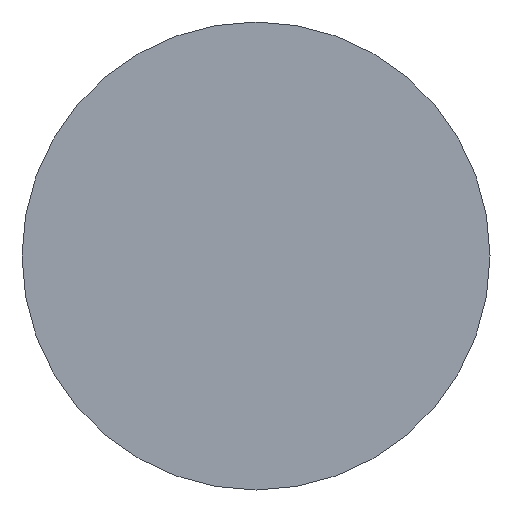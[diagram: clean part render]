
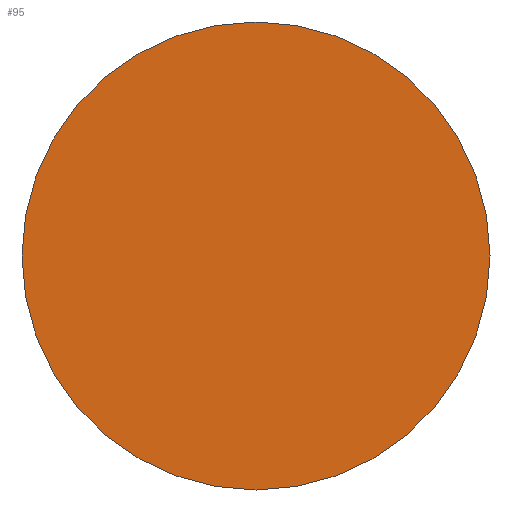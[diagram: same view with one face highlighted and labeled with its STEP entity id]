
A CAD part, front view. The second image highlights one B-rep face of the part: STEP entity #95.
In plain terms, the highlighted planar face has unit normal (0, -1, 0).
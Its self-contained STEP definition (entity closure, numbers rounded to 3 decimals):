
#1 = VERTEX_POINT ( 'NONE', #117 ) ;
#7 = EDGE_LOOP ( 'NONE', ( #75, #56 ) ) ;
#14 = CARTESIAN_POINT ( 'NONE',  ( 0., -5., 0. ) ) ;
#16 = CIRCLE ( 'NONE', #139, 2.5 ) ;
#32 = PLANE ( 'NONE',  #40 ) ;
#34 = DIRECTION ( 'NONE',  ( 0., 1., 0. ) ) ;
#35 = DIRECTION ( 'NONE',  ( 0., 0., 1. ) ) ;
#40 = AXIS2_PLACEMENT_3D ( 'NONE', #100, #47, #35 ) ;
#47 = DIRECTION ( 'NONE',  ( 0., 1., 0. ) ) ;
#56 = ORIENTED_EDGE ( 'NONE', *, *, #114, .F. ) ;
#75 = ORIENTED_EDGE ( 'NONE', *, *, #131, .F. ) ;
#78 = FACE_OUTER_BOUND ( 'NONE', #7, .T. ) ;
#95 = ADVANCED_FACE ( 'NONE', ( #78 ), #32, .F. ) ;
#100 = CARTESIAN_POINT ( 'NONE',  ( 0., -5., 0. ) ) ;
#114 = EDGE_CURVE ( 'NONE', #1, #130, #16, .T. ) ;
#117 = CARTESIAN_POINT ( 'NONE',  ( 0., -5., 2.5 ) ) ;
#123 = DIRECTION ( 'NONE',  ( 0., 1., 0. ) ) ;
#124 = CIRCLE ( 'NONE', #157, 2.5 ) ;
#130 = VERTEX_POINT ( 'NONE', #172 ) ;
#131 = EDGE_CURVE ( 'NONE', #130, #1, #124, .T. ) ;
#139 = AXIS2_PLACEMENT_3D ( 'NONE', #153, #123, #171 ) ;
#143 = DIRECTION ( 'NONE',  ( 0., 0., 1. ) ) ;
#153 = CARTESIAN_POINT ( 'NONE',  ( 0., -5., 0. ) ) ;
#157 = AXIS2_PLACEMENT_3D ( 'NONE', #14, #34, #143 ) ;
#171 = DIRECTION ( 'NONE',  ( 0., 0., 1. ) ) ;
#172 = CARTESIAN_POINT ( 'NONE',  ( 0., -5., -2.5 ) ) ;
